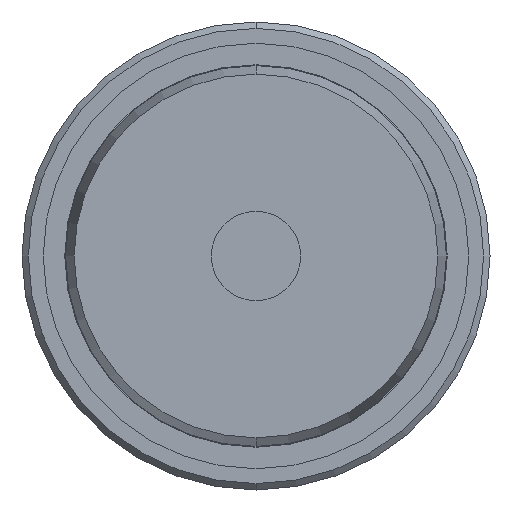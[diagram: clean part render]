
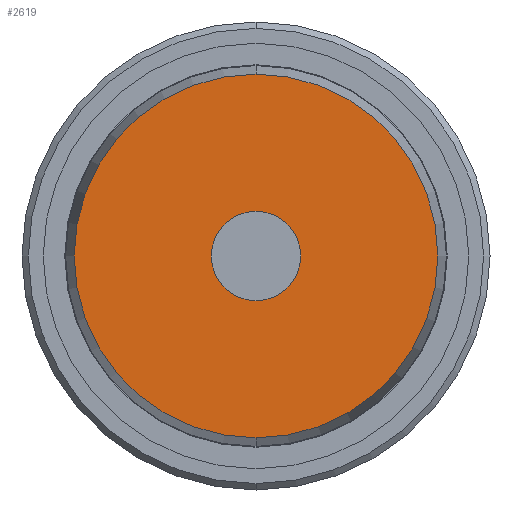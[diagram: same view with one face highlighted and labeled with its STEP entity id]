
A CAD part, front view. The second image highlights one B-rep face of the part: STEP entity #2619.
In plain terms, the highlighted planar face has unit normal (0, -1, 0).
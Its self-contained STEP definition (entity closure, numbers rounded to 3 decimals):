
#11 = AXIS2_PLACEMENT_3D ( 'NONE', #315, #2143, #581 ) ;
#18 = VERTEX_POINT ( 'NONE', #150 ) ;
#125 = DIRECTION ( 'NONE',  ( 0., 0., -1. ) ) ;
#133 = DIRECTION ( 'NONE',  ( 0., -1., 0. ) ) ;
#142 = CARTESIAN_POINT ( 'NONE',  ( 0., 0., 0. ) ) ;
#150 = CARTESIAN_POINT ( 'NONE',  ( 0., 0., 2.1 ) ) ;
#315 = CARTESIAN_POINT ( 'NONE',  ( 0., 0., 0. ) ) ;
#357 = CIRCLE ( 'NONE', #1530, 2.1 ) ;
#437 = DIRECTION ( 'NONE',  ( 0., 0., 1. ) ) ;
#462 = ORIENTED_EDGE ( 'NONE', *, *, #2168, .F. ) ;
#542 = ORIENTED_EDGE ( 'NONE', *, *, #715, .T. ) ;
#581 = DIRECTION ( 'NONE',  ( 0., 0., 1. ) ) ;
#704 = DIRECTION ( 'NONE',  ( 0., -1., 0. ) ) ;
#715 = EDGE_CURVE ( 'NONE', #1116, #1368, #1982, .T. ) ;
#717 = CARTESIAN_POINT ( 'NONE',  ( 0., 0., -2.1 ) ) ;
#859 = CIRCLE ( 'NONE', #11, 8.548 ) ;
#1116 = VERTEX_POINT ( 'NONE', #1773 ) ;
#1128 = EDGE_LOOP ( 'NONE', ( #462, #1574 ) ) ;
#1267 = FACE_OUTER_BOUND ( 'NONE', #1914, .T. ) ;
#1368 = VERTEX_POINT ( 'NONE', #2555 ) ;
#1487 = PLANE ( 'NONE',  #1667 ) ;
#1530 = AXIS2_PLACEMENT_3D ( 'NONE', #2245, #704, #2479 ) ;
#1574 = ORIENTED_EDGE ( 'NONE', *, *, #3035, .F. ) ;
#1667 = AXIS2_PLACEMENT_3D ( 'NONE', #1750, #2962, #437 ) ;
#1750 = CARTESIAN_POINT ( 'NONE',  ( -8.987, 0., 0. ) ) ;
#1773 = CARTESIAN_POINT ( 'NONE',  ( 0., 0., -8.548 ) ) ;
#1795 = AXIS2_PLACEMENT_3D ( 'NONE', #142, #133, #125 ) ;
#1914 = EDGE_LOOP ( 'NONE', ( #2172, #542 ) ) ;
#1982 = CIRCLE ( 'NONE', #2038, 8.548 ) ;
#2014 = CIRCLE ( 'NONE', #1795, 2.1 ) ;
#2038 = AXIS2_PLACEMENT_3D ( 'NONE', #2965, #2972, #2980 ) ;
#2096 = VERTEX_POINT ( 'NONE', #717 ) ;
#2143 = DIRECTION ( 'NONE',  ( 0., -1., 0. ) ) ;
#2168 = EDGE_CURVE ( 'NONE', #2096, #18, #2014, .T. ) ;
#2172 = ORIENTED_EDGE ( 'NONE', *, *, #2822, .T. ) ;
#2245 = CARTESIAN_POINT ( 'NONE',  ( 0., 0., 0. ) ) ;
#2479 = DIRECTION ( 'NONE',  ( 0., 0., -1. ) ) ;
#2555 = CARTESIAN_POINT ( 'NONE',  ( 0., 0., 8.548 ) ) ;
#2593 = FACE_BOUND ( 'NONE', #1128, .T. ) ;
#2619 = ADVANCED_FACE ( 'NONE', ( #2593, #1267 ), #1487, .F. ) ;
#2822 = EDGE_CURVE ( 'NONE', #1368, #1116, #859, .T. ) ;
#2962 = DIRECTION ( 'NONE',  ( 0., 1., 0. ) ) ;
#2965 = CARTESIAN_POINT ( 'NONE',  ( 0., 0., 0. ) ) ;
#2972 = DIRECTION ( 'NONE',  ( 0., -1., 0. ) ) ;
#2980 = DIRECTION ( 'NONE',  ( 0., 0., 1. ) ) ;
#3035 = EDGE_CURVE ( 'NONE', #18, #2096, #357, .T. ) ;
